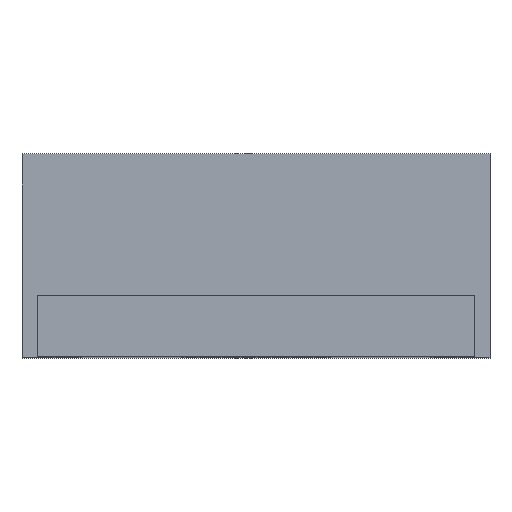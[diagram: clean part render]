
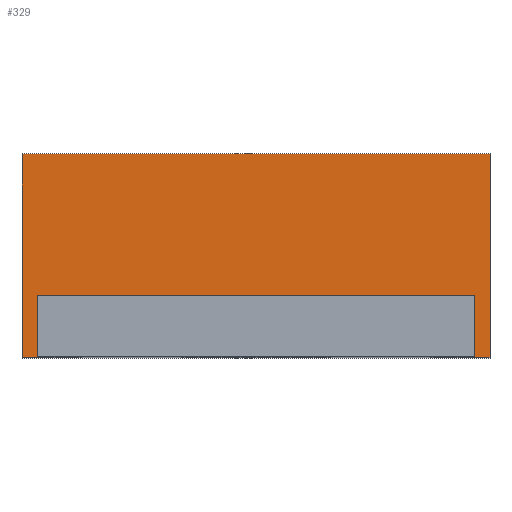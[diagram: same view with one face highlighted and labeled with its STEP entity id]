
A CAD part, top view. The second image highlights one B-rep face of the part: STEP entity #329.
In plain terms, the highlighted planar face has unit normal (0, 0, 1).
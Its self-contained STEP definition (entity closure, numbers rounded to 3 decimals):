
#329=ADVANCED_FACE('',(#618),#620,.T.);
#618=FACE_BOUND('',#619,.T.);
#619=EDGE_LOOP('',(#810,#811,#812,#813,#814,#815,#816,#817));
#620=PLANE('',#621);
#621=AXIS2_PLACEMENT_3D('',#622,#623,#624);
#622=CARTESIAN_POINT('',(-5.35,-2.325,9.6));
#623=DIRECTION('',(0.,0.,1.));
#624=DIRECTION('',(1.,0.,0.));
#810=ORIENTED_EDGE('',*,*,#931,.T.);
#811=ORIENTED_EDGE('',*,*,#932,.T.);
#812=ORIENTED_EDGE('',*,*,#908,.T.);
#813=ORIENTED_EDGE('',*,*,#919,.T.);
#814=ORIENTED_EDGE('',*,*,#917,.F.);
#815=ORIENTED_EDGE('',*,*,#915,.F.);
#816=ORIENTED_EDGE('',*,*,#905,.T.);
#817=ORIENTED_EDGE('',*,*,#929,.T.);
#905=EDGE_CURVE('',#1035,#1033,#1036,.T.);
#908=EDGE_CURVE('',#1040,#1038,#1041,.T.);
#915=EDGE_CURVE('',#1035,#1053,#1054,.T.);
#917=EDGE_CURVE('',#1053,#1056,#1057,.T.);
#919=EDGE_CURVE('',#1038,#1056,#1059,.T.);
#929=EDGE_CURVE('',#1033,#1074,#1075,.F.);
#931=EDGE_CURVE('',#1074,#1077,#1078,.T.);
#932=EDGE_CURVE('',#1077,#1040,#1079,.F.);
#1033=VERTEX_POINT('',#1291);
#1035=VERTEX_POINT('',#1295);
#1036=LINE('',#1296,#1297);
#1038=VERTEX_POINT('',#1302);
#1040=VERTEX_POINT('',#1306);
#1041=LINE('',#1307,#1308);
#1053=VERTEX_POINT('',#1333);
#1054=LINE('',#1334,#1335);
#1056=VERTEX_POINT('',#1340);
#1057=LINE('',#1341,#1342);
#1059=LINE('',#1347,#1348);
#1074=VERTEX_POINT('',#1382);
#1075=LINE('',#1383,#1384);
#1077=VERTEX_POINT('',#1389);
#1078=LINE('',#1390,#1391);
#1079=LINE('',#1393,#1394);
#1291=CARTESIAN_POINT('',(-5.,-2.325,9.6));
#1295=CARTESIAN_POINT('',(-5.35,-2.325,9.6));
#1296=CARTESIAN_POINT('',(-5.35,-2.325,9.6));
#1297=VECTOR('',#1298,1.);
#1298=DIRECTION('',(1.,0.,0.));
#1302=CARTESIAN_POINT('',(5.35,-2.325,9.6));
#1306=CARTESIAN_POINT('',(5.,-2.325,9.6));
#1307=CARTESIAN_POINT('',(5.,-2.325,9.6));
#1308=VECTOR('',#1309,1.);
#1309=DIRECTION('',(1.,0.,0.));
#1333=CARTESIAN_POINT('',(-5.35,2.325,9.6));
#1334=CARTESIAN_POINT('',(-5.35,-2.325,9.6));
#1335=VECTOR('',#1336,1.);
#1336=DIRECTION('',(0.,1.,0.));
#1340=CARTESIAN_POINT('',(5.35,2.325,9.6));
#1341=CARTESIAN_POINT('',(-5.35,2.325,9.6));
#1342=VECTOR('',#1343,1.);
#1343=DIRECTION('',(1.,0.,0.));
#1347=CARTESIAN_POINT('',(5.35,-2.325,9.6));
#1348=VECTOR('',#1349,1.);
#1349=DIRECTION('',(0.,1.,0.));
#1382=CARTESIAN_POINT('',(-5.,-0.925,9.6));
#1383=CARTESIAN_POINT('',(-5.,-0.925,9.6));
#1384=VECTOR('',#1385,1.);
#1385=DIRECTION('',(0.,-1.,0.));
#1389=CARTESIAN_POINT('',(5.,-0.925,9.6));
#1390=CARTESIAN_POINT('',(-5.,-0.925,9.6));
#1391=VECTOR('',#1392,1.);
#1392=DIRECTION('',(1.,0.,0.));
#1393=CARTESIAN_POINT('',(5.,-2.325,9.6));
#1394=VECTOR('',#1395,1.);
#1395=DIRECTION('',(0.,1.,0.));
